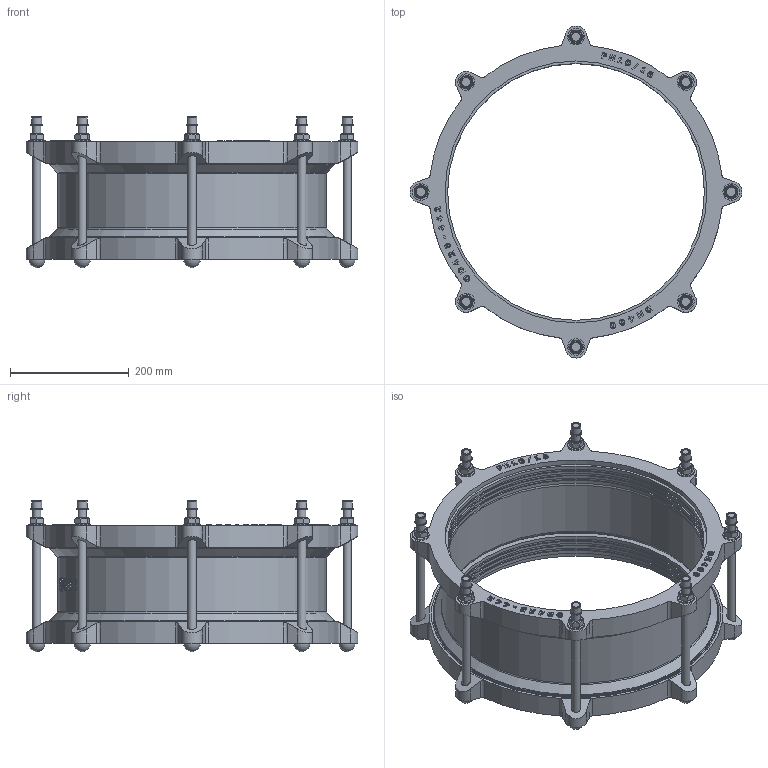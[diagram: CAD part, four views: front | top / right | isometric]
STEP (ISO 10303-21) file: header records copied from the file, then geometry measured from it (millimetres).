
FILE_DESCRIPTION(('STEP AP203'), '1');
FILE_NAME('Cîåäèíèòåëüíàÿ ìóôòà äëÿ æåñòêèõ òðóá', '', ('UNSPECIFIED'), ('UNSPECIFIED'), 'C3D Converter', 'C3D Toolkit', '');
FILE_SCHEMA(('CONFIG_CONTROL_DESIGN'));
Length unit declared in the file: millimetre
Assembly tree (37 placements, depth 2):
  (unnamed)
    (unnamed)
    (unnamed)  x8
    (unnamed)  x8
    (unnamed)  x8
    (unnamed)  x8
    (unnamed)
    (unnamed)
    (unnamed)  x2
Bounding box: 560 x 560 x 255.4 mm (x, y, z)
Volume: 5337709.7 mm3; surface area: 1379058.1 mm2
Topology: 41 solids, 41 shells, 926 faces, 2243 edges, 1466 vertices
Faces by surface type: plane 399, extrusion 258, cylinder 173, cone 62, torus 26, sphere 8
Full cylindrical faces by diameter (mm): 14 x24, 15 x8, 16 x16, 16.8 x8, 19.6 x8, 23.29 x1, 28 x8, 433.5 x8, 437.75 x6, 442 x3, 448 x2, 454 x3, 481 x2, 484 x4
Entity records: 33327 total; most frequent: CARTESIAN_POINT 12542, ORIENTED_EDGE 3490, DIRECTION 2519, EDGE_CURVE 1745, VERTEX_POINT 1192, VECTOR 1127, B_SPLINE_CURVE_WITH_KNOTS 884, EDGE_LOOP 869
